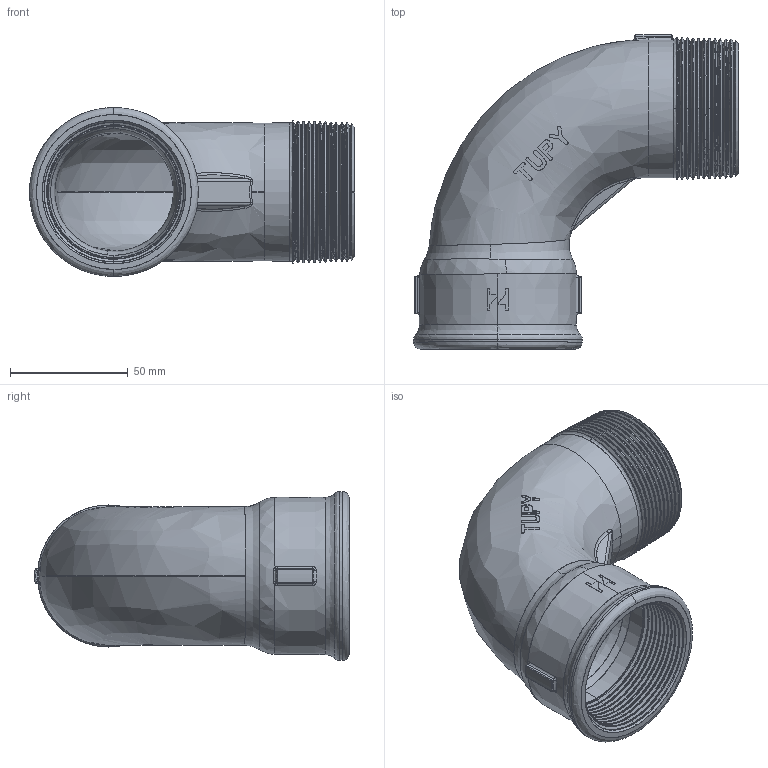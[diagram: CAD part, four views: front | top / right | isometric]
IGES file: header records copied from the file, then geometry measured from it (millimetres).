
Start section: SolidWorks IGES file using analytic representation for surfaces
Global section: file name: C:\Users\Joel Rosa\Desktop\Tubulação\12-22-OK\12-22-010.IGS; native system: SolidWorks 2011; preprocessor: SolidWorks 2011; author: Joel Rosa; date: 130205.210554; units: millimetre
Bounding box: 137.8 x 133.3 x 71.6 mm (x, y, z)
Surface area: 70573.8 mm2 (no closed solid volume)
Topology: 0 solids, 0 shells, 443 faces, 3751 edges, 3751 vertices
Faces by surface type: bspline 295, revolution 148
